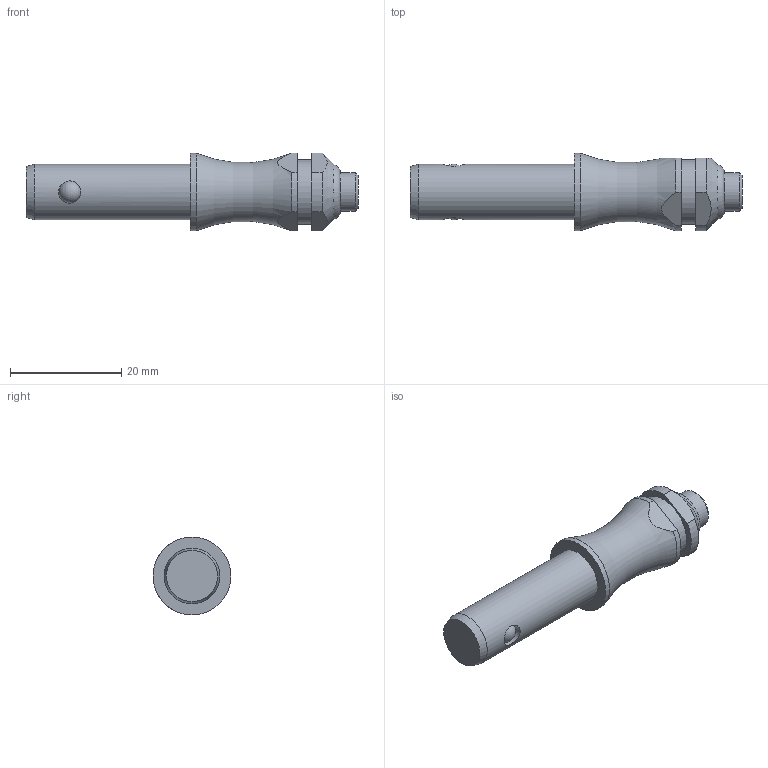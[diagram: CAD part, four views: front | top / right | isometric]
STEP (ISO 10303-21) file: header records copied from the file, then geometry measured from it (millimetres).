
FILE_DESCRIPTION( ( 'STEP AP203' ), '1' );
FILE_NAME( 'C:/Temp/Ganter_Step_05_03_2020/data/3_1/gn113_3/Stainless Steel-Ball lock pin GN 113.3-10-20 (activated).stp', '2020-03-12T08:18:31', ( 'License CC BY-ND 4.0' ), ( 'CADENAS' ), ' ', 'PARTsolutions', ' ' );
FILE_SCHEMA( ( 'CONFIG_CONTROL_DESIGN' ) );
Length unit declared in the file: millimetre
Products named in the file (1): _Stainless Steel-Ball lock pin GN 113.3-10-20 (activated)
Bounding box: 59.75 x 14 x 14 mm (x, y, z)
Volume: 5402.7 mm3; surface area: 2380.9 mm2
Topology: 1 solids, 1 shells, 30 faces, 72 edges, 45 vertices
Faces by surface type: cylinder 12, plane 11, cone 3, torus 2, sphere 2
Full cylindrical faces by diameter (mm): 4 x2, 7 x1, 10 x1, 11.6 x1, 14 x1
Entity records: 988 total; most frequent: CARTESIAN_POINT 341, DIRECTION 130, ORIENTED_EDGE 102, AXIS2_PLACEMENT_3D 56, EDGE_CURVE 51, EDGE_LOOP 46, VERTEX_POINT 39, FACE_OUTER_BOUND 38
